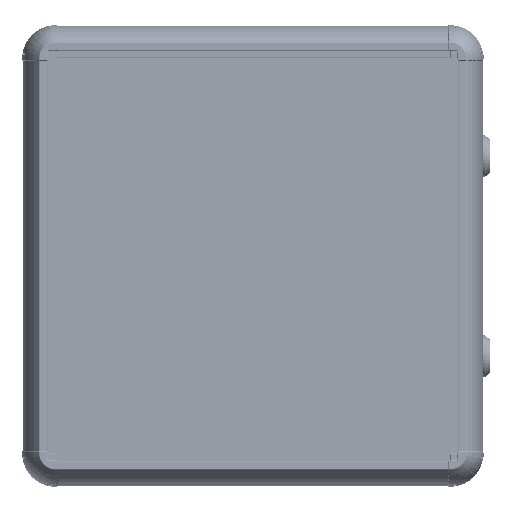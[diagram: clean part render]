
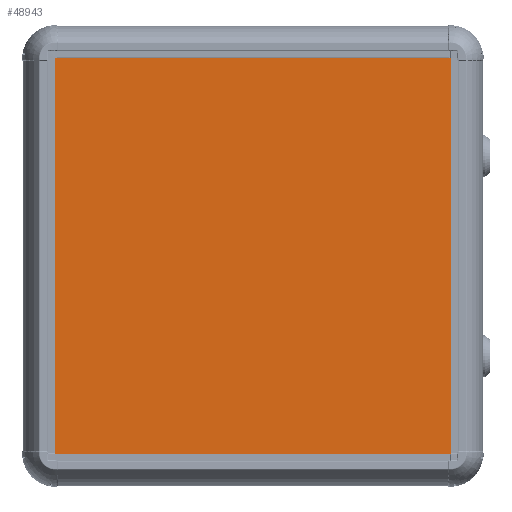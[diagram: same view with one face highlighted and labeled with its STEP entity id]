
A CAD part, top view. The second image highlights one B-rep face of the part: STEP entity #48943.
In plain terms, the highlighted planar face has unit normal (0, 0, 1).
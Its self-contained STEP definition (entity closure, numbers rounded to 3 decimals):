
#836 = EDGE_CURVE ( 'NONE', #60285, #45316, #99807, .T. ) ;
#5491 = CARTESIAN_POINT ( 'NONE',  ( -150., 150., 2. ) ) ;
#8629 = EDGE_CURVE ( 'NONE', #45316, #48822, #66279, .T. ) ;
#12156 = EDGE_CURVE ( 'NONE', #48822, #96354, #67358, .T. ) ;
#18057 = CARTESIAN_POINT ( 'NONE',  ( -150., 150., 2. ) ) ;
#19695 = VECTOR ( 'NONE', #23521, 1000. ) ;
#20688 = FACE_OUTER_BOUND ( 'NONE', #122308, .T. ) ;
#23003 = ORIENTED_EDGE ( 'NONE', *, *, #59178, .T. ) ;
#23521 = DIRECTION ( 'NONE',  ( 1., 0., 0. ) ) ;
#26725 = ORIENTED_EDGE ( 'NONE', *, *, #836, .T. ) ;
#29704 = DIRECTION ( 'NONE',  ( 0., 1., 0. ) ) ;
#38368 = VECTOR ( 'NONE', #117121, 1000. ) ;
#42595 = AXIS2_PLACEMENT_3D ( 'NONE', #59089, #98856, #118339 ) ;
#45316 = VERTEX_POINT ( 'NONE', #74160 ) ;
#47616 = DIRECTION ( 'NONE',  ( 0., -1., 0. ) ) ;
#47990 = CARTESIAN_POINT ( 'NONE',  ( 150., 150., 2. ) ) ;
#48822 = VERTEX_POINT ( 'NONE', #112755 ) ;
#48943 = ADVANCED_FACE ( 'NONE', ( #20688 ), #86859, .T. ) ;
#53087 = CARTESIAN_POINT ( 'NONE',  ( -150., -150., 2. ) ) ;
#59089 = CARTESIAN_POINT ( 'NONE',  ( 0., 0., 2. ) ) ;
#59178 = EDGE_CURVE ( 'NONE', #96354, #60285, #76016, .T. ) ;
#60285 = VERTEX_POINT ( 'NONE', #116151 ) ;
#66279 = LINE ( 'NONE', #47990, #69852 ) ;
#67358 = LINE ( 'NONE', #105232, #38368 ) ;
#69852 = VECTOR ( 'NONE', #29704, 1000. ) ;
#74160 = CARTESIAN_POINT ( 'NONE',  ( 150., -150., 2. ) ) ;
#76016 = LINE ( 'NONE', #18057, #76047 ) ;
#76047 = VECTOR ( 'NONE', #47616, 1000. ) ;
#81429 = ORIENTED_EDGE ( 'NONE', *, *, #12156, .T. ) ;
#86859 = PLANE ( 'NONE',  #42595 ) ;
#94685 = ORIENTED_EDGE ( 'NONE', *, *, #8629, .T. ) ;
#96354 = VERTEX_POINT ( 'NONE', #5491 ) ;
#98856 = DIRECTION ( 'NONE',  ( 0., 0., 1. ) ) ;
#99807 = LINE ( 'NONE', #53087, #19695 ) ;
#105232 = CARTESIAN_POINT ( 'NONE',  ( -150., 150., 2. ) ) ;
#112755 = CARTESIAN_POINT ( 'NONE',  ( 150., 150., 2. ) ) ;
#116151 = CARTESIAN_POINT ( 'NONE',  ( -150., -150., 2. ) ) ;
#117121 = DIRECTION ( 'NONE',  ( -1., 0., 0. ) ) ;
#118339 = DIRECTION ( 'NONE',  ( 1., 0., 0. ) ) ;
#122308 = EDGE_LOOP ( 'NONE', ( #94685, #81429, #23003, #26725 ) ) ;
